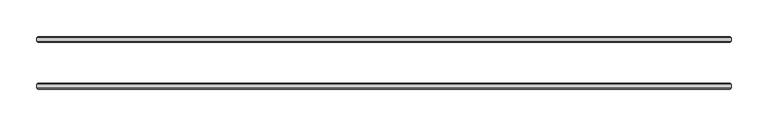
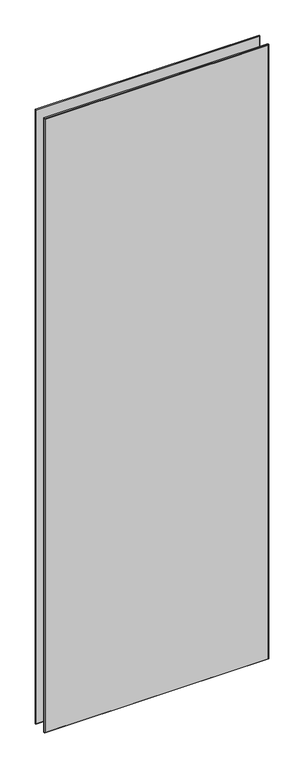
"""IFC4 building model written with IfcOpenShell, lengths in millimetres: plate geometry, 3-AMG-2-Панель двойной витраж 8, 10 : Смещение 32 Толщина 8mm."""

from ifc_helpers import new_model, si_unit, origin, place, context, project, spatial, faceted_brep, source, transform, mapped, element, save


def plate_72be16de(model_context):
    return source(origin(), model_context, "Body", "Brep", [
        faceted_brep([(478.4961907, -34.4961653, 2751.0), (478.4961907, -29.5038347, 2751.0), (-473.4961907, -29.5038347, 2751.0), (-473.4961907, -34.4961653, 2751.0), (478.4961907, -29.5038347, -7.0), (478.4961907, -34.4961653, -7.0), (-473.4961907, -34.4961653, -7.0), (-473.4961907, -29.5038347, -7.0), (-471.992356, -28.0, 2749.4961653), (476.992356, -28.0, 2749.4961653), (476.992356, -28.0, -5.5039422), (-471.992356, -28.0, -5.5039422), (476.992356, -36.0, 2749.4961653), (-471.992356, -36.0, 2749.4961653), (-471.992356, -36.0, -5.4961653), (476.992356, -36.0, -5.4961653)], [[[0, 1, 2, 3]], [[4, 5, 6, 7]], [[8, 9, 10, 11]], [[3, 2, 7, 6]], [[12, 13, 14, 15]], [[1, 0, 5, 4]], [[1, 4, 10, 9]], [[5, 0, 12, 15]], [[0, 3, 13, 12]], [[2, 1, 9, 8]], [[7, 2, 8, 11]], [[3, 6, 14, 13]], [[6, 5, 15, 14]], [[4, 7, 11, 10]]]),
        faceted_brep([(478.4961907, 29.5038347, 2751.0), (478.4961907, 34.4961653, 2751.0), (-473.4961907, 34.4961653, 2751.0), (-473.4961907, 29.5038347, 2751.0), (478.4961907, 34.4961653, -7.0), (478.4961907, 29.5038347, -7.0), (-473.4961907, 29.5038347, -7.0), (-473.4961907, 34.4961653, -7.0), (-471.992356, 36.0, 2749.4961653), (476.992356, 36.0, 2749.4961653), (476.992356, 36.0, -5.5039422), (-471.992356, 36.0, -5.5039422), (476.992356, 28.0, 2749.4961653), (-471.992356, 28.0, 2749.4961653), (-471.992356, 28.0, -5.4961653), (476.992356, 28.0, -5.4961653)], [[[0, 1, 2, 3]], [[4, 5, 6, 7]], [[8, 9, 10, 11]], [[3, 2, 7, 6]], [[12, 13, 14, 15]], [[1, 0, 5, 4]], [[1, 4, 10, 9]], [[5, 0, 12, 15]], [[7, 2, 8, 11]], [[3, 6, 14, 13]], [[0, 3, 13, 12]], [[2, 1, 9, 8]], [[6, 5, 15, 14]], [[4, 7, 11, 10]]]),
    ])


if __name__ == "__main__":
    model = new_model("IFC4")
    model_context = context("Model", 3, world=origin())
    ifc_project = project(units=[si_unit("LENGTHUNIT", "METRE", prefix="MILLI")], contexts=[model_context])
    site = spatial("IfcSite", under=ifc_project)
    building = spatial("IfcBuilding", under=site)
    placement = place(None, origin())
    plate_shape = plate_72be16de(model_context)
    element("IfcPlate", 1, ObjectType="3-AMG-2-Панель двойной витраж 8, 10 : Смещение 32 Толщина 8mm", at=placement, inside=building, context=model_context, shape_type="MappedRepresentation", body=[
        mapped(plate_shape, transform((0.0, 0.0, 0.0), x_axis=(1.0, 0.0, 0.0), y_axis=(0.0, 1.0, 0.0), z_axis=(0.0, 0.0, 1.0))),
    ])
    save(model, "model.ifc")
